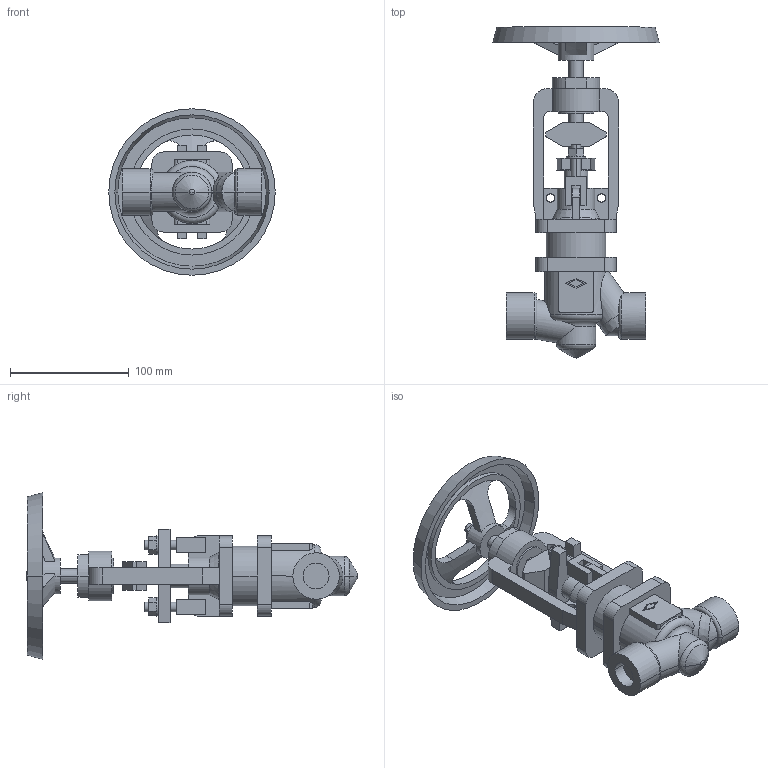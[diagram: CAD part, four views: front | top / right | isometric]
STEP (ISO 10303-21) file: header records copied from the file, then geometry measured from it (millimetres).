
FILE_DESCRIPTION(('OneSpaceDesigner STEP Export'),'2;1');
FILE_NAME('c000004271.stp','2010-05-04T11:18:55',(''),(''),'OneSpace Designer STEP processor for AP214 (Solid Model)','OneSpace Modeling 15.50B 03-Nov-2007 (C) CoCreate Software GmbH','');
FILE_SCHEMA(('AUTOMOTIVE_DESIGN { 1 0 10303 214 1 1 1 1 }'));
Length unit declared in the file: millimetre
Products named in the file (1): 1
Bounding box: 140 x 279.13 x 140 mm (x, y, z)
Volume: 579267.3 mm3; surface area: 118190 mm2
Topology: 1 solids, 1 shells, 283 faces, 739 edges, 480 vertices
Faces by surface type: plane 152, cylinder 91, cone 24, torus 14, sphere 2
Entity records: 10970 total; most frequent: CARTESIAN_POINT 2084, ORIENTED_EDGE 1478, DIRECTION 1243, EDGE_CURVE 739, VERTEX_POINT 480, VECTOR 431, LINE 431, AXIS2_PLACEMENT_3D 406
